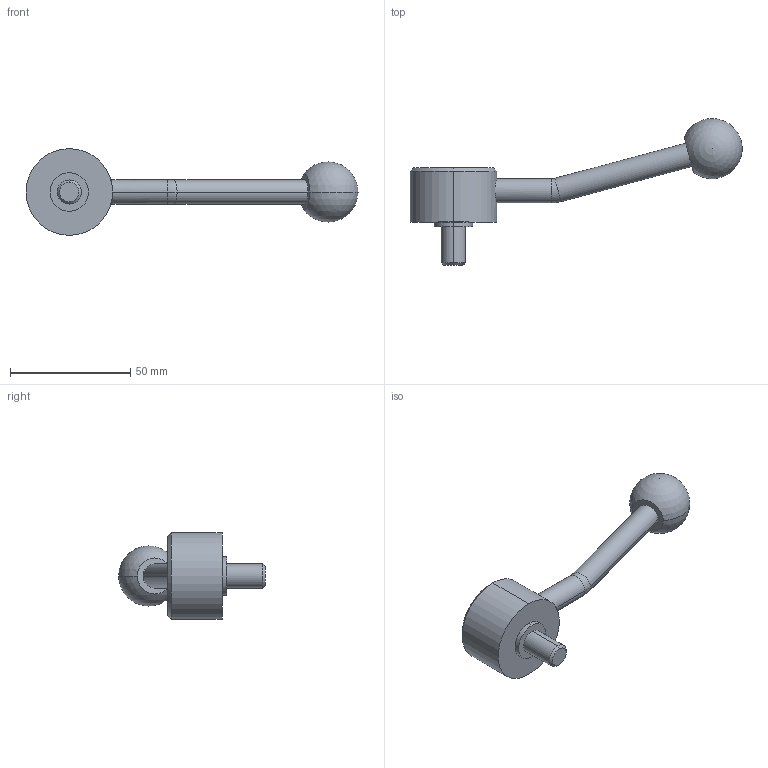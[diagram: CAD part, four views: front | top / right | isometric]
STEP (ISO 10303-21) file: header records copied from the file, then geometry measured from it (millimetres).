
FILE_DESCRIPTION (( 'STEP AP214' ), '1' );
FILE_NAME ('125.5-36-M10-16-E.step', '2020-02-18T11:30:53', ( '' ), ( '' ), 'SwSTEP 2.0', 'SolidWorks 2019', '' );
FILE_SCHEMA (( 'AUTOMOTIVE_DESIGN' ));
Length unit declared in the file: millimetre
Products named in the file (1): 125.5-36-M10-16-E
Bounding box: 137.95 x 61 x 36 mm (x, y, z)
Volume: 38908.5 mm3; surface area: 9440.3 mm2
Topology: 1 solids, 1 shells, 26 faces, 55 edges, 34 vertices
Faces by surface type: cylinder 12, plane 6, cone 4, torus 2, sphere 2
Entity records: 840 total; most frequent: CARTESIAN_POINT 182, DIRECTION 134, ORIENTED_EDGE 100, AXIS2_PLACEMENT_3D 59, EDGE_CURVE 50, CIRCLE 32, EDGE_LOOP 31, VERTEX_POINT 31
